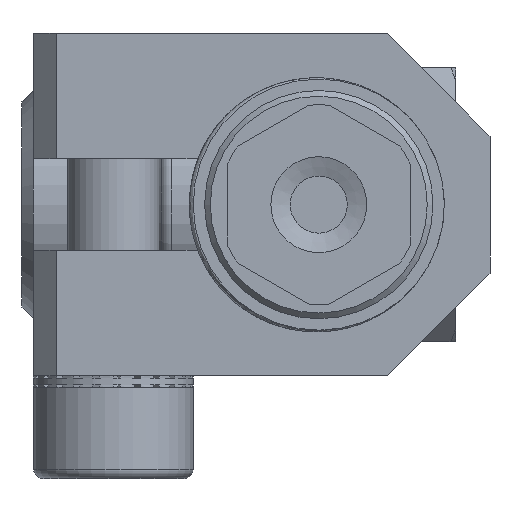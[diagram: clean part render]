
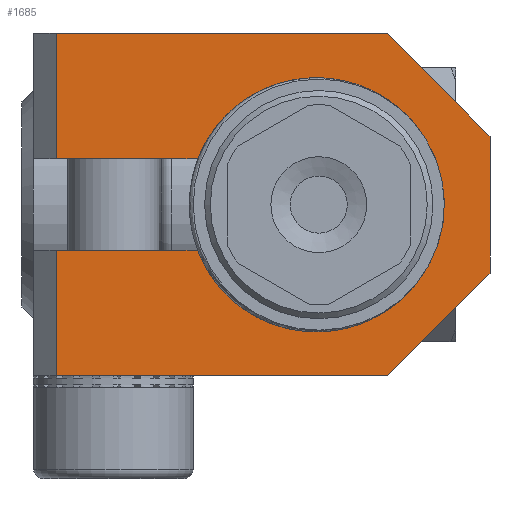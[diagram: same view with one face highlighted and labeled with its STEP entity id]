
A CAD part, front view. The second image highlights one B-rep face of the part: STEP entity #1685.
In plain terms, the highlighted planar face has unit normal (0, -1, 0).
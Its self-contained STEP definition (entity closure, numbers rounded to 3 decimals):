
#1685=ADVANCED_FACE('',(#2878),#2879,.F.);
#2878=FACE_OUTER_BOUND('',#4981,.T.);
#2879=PLANE('',#4982);
#4981=EDGE_LOOP('',(#8073,#8074,#8075,#8076,#8077,#8078,#8079,#8080,#8081,#8082));
#4982=AXIS2_PLACEMENT_3D('',#8083,#8084,#8085);
#8073=ORIENTED_EDGE('',*,*,#9476,.T.);
#8074=ORIENTED_EDGE('',*,*,#9467,.T.);
#8075=ORIENTED_EDGE('',*,*,#9477,.F.);
#8076=ORIENTED_EDGE('',*,*,#9478,.T.);
#8077=ORIENTED_EDGE('',*,*,#9479,.T.);
#8078=ORIENTED_EDGE('',*,*,#9480,.T.);
#8079=ORIENTED_EDGE('',*,*,#9481,.T.);
#8080=ORIENTED_EDGE('',*,*,#9482,.T.);
#8081=ORIENTED_EDGE('',*,*,#9483,.T.);
#8082=ORIENTED_EDGE('',*,*,#9484,.T.);
#8083=CARTESIAN_POINT('',(-25.172,-11.644,-7.5));
#8084=DIRECTION('',(0.0,1.0,0.0));
#8085=DIRECTION('',(0.0,0.0,1.0));
#9467=EDGE_CURVE('',#11328,#11325,#11329,.T.);
#9476=EDGE_CURVE('',#11340,#11328,#11341,.T.);
#9477=EDGE_CURVE('',#11342,#11325,#11343,.T.);
#9478=EDGE_CURVE('',#11342,#11344,#11345,.T.);
#9479=EDGE_CURVE('',#11344,#11346,#11347,.T.);
#9480=EDGE_CURVE('',#11346,#11348,#11349,.T.);
#9481=EDGE_CURVE('',#11348,#11350,#11351,.F.);
#9482=EDGE_CURVE('',#11350,#11352,#11353,.T.);
#9483=EDGE_CURVE('',#11352,#11354,#11355,.T.);
#9484=EDGE_CURVE('',#11354,#11340,#11356,.T.);
#11325=VERTEX_POINT('',#14148);
#11328=VERTEX_POINT('',#14152);
#11329=CIRCLE('',#14153,5.0);
#11340=VERTEX_POINT('',#14194);
#11341=LINE('',#14195,#14196);
#11342=VERTEX_POINT('',#14197);
#11343=LINE('',#14198,#14199);
#11344=VERTEX_POINT('',#14200);
#11345=LINE('',#14201,#14202);
#11346=VERTEX_POINT('',#14203);
#11347=LINE('',#14204,#14205);
#11348=VERTEX_POINT('',#14206);
#11349=LINE('',#14207,#14208);
#11350=VERTEX_POINT('',#14209);
#11351=LINE('',#14210,#14211);
#11352=VERTEX_POINT('',#14212);
#11353=LINE('',#14213,#14214);
#11354=VERTEX_POINT('',#14215);
#11355=LINE('',#14216,#14217);
#11356=LINE('',#14218,#14219);
#14148=CARTESIAN_POINT('',(-29.754,-11.644,-9.5));
#14152=CARTESIAN_POINT('',(-29.754,-11.644,-5.5));
#14153=AXIS2_PLACEMENT_3D('',#15739,#15740,#15741);
#14194=CARTESIAN_POINT('',(-36.672,-11.644,-5.5));
#14195=CARTESIAN_POINT('',(-37.672,-11.644,-5.5));
#14196=VECTOR('',#15746,1.0);
#14197=CARTESIAN_POINT('',(-36.672,-11.644,-9.5));
#14198=CARTESIAN_POINT('',(-37.672,-11.644,-9.5));
#14199=VECTOR('',#15747,1.0);
#14200=CARTESIAN_POINT('',(-36.672,-11.644,-15.0));
#14201=CARTESIAN_POINT('',(-36.672,-11.644,-7.5));
#14202=VECTOR('',#15748,1.0);
#14203=CARTESIAN_POINT('',(-22.172,-11.644,-15.0));
#14204=CARTESIAN_POINT('',(-28.044,-11.644,-15.0));
#14205=VECTOR('',#15749,1.0);
#14206=CARTESIAN_POINT('',(-17.672,-11.644,-10.5));
#14207=CARTESIAN_POINT('',(-22.172,-11.644,-15.0));
#14208=VECTOR('',#15750,1.0);
#14209=CARTESIAN_POINT('',(-17.672,-11.644,-4.5));
#14210=CARTESIAN_POINT('',(-17.672,-11.644,-10.5));
#14211=VECTOR('',#15751,1.0);
#14212=CARTESIAN_POINT('',(-22.172,-11.644,0.0));
#14213=CARTESIAN_POINT('',(-14.672,-11.644,-7.5));
#14214=VECTOR('',#15752,1.0);
#14215=CARTESIAN_POINT('',(-36.672,-11.644,0.0));
#14216=CARTESIAN_POINT('',(-22.172,-11.644,0.0));
#14217=VECTOR('',#15753,1.0);
#14218=CARTESIAN_POINT('',(-36.672,-11.644,-7.5));
#14219=VECTOR('',#15754,1.0);
#15739=CARTESIAN_POINT('',(-25.172,-11.644,-7.5));
#15740=DIRECTION('',(0.0,1.0,0.0));
#15741=DIRECTION('',(0.0,0.0,1.0));
#15746=DIRECTION('',(1.0,0.0,0.0));
#15747=DIRECTION('',(1.0,0.0,0.0));
#15748=DIRECTION('',(0.0,0.0,-1.0));
#15749=DIRECTION('',(1.0,0.0,0.0));
#15750=DIRECTION('',(0.707,0.0,0.707));
#15751=DIRECTION('',(0.,0.0,-1.0));
#15752=DIRECTION('',(-0.707,0.0,0.707));
#15753=DIRECTION('',(-1.0,0.0,0.0));
#15754=DIRECTION('',(0.0,0.0,-1.0));
